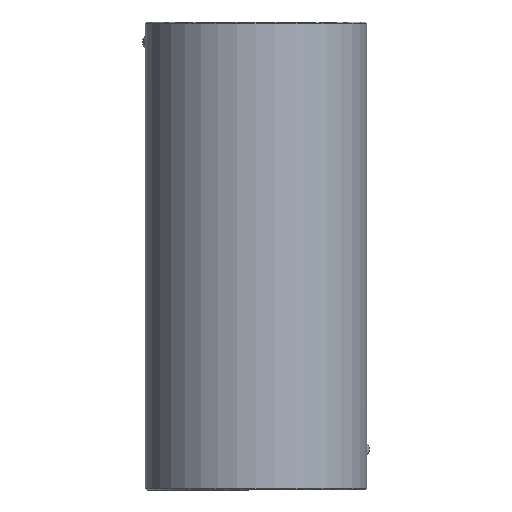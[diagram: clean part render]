
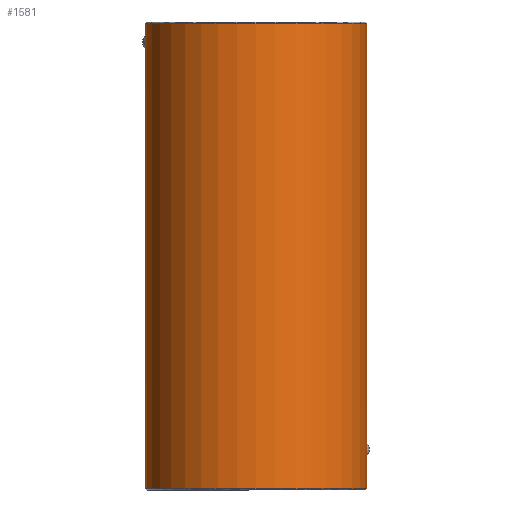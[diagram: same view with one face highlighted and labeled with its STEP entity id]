
A CAD part, front view. The second image highlights one B-rep face of the part: STEP entity #1581.
In plain terms, the highlighted cylindrical face has radius 22.5 mm (diameter 45 mm), a partial arc.
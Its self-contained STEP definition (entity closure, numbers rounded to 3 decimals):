
#1363=CARTESIAN_POINT('Vertex',(-22.5,0.,0.3)) ;
#1370=CARTESIAN_POINT('Vertex',(22.5,0.,0.3)) ;
#1373=CARTESIAN_POINT('Axis2P3D Location',(0.,0.,0.3)) ;
#1491=CARTESIAN_POINT('Axis2P3D Location',(0.,0.,95.)) ;
#1496=CARTESIAN_POINT('Line Origine',(22.5,0.,95.)) ;
#1500=CARTESIAN_POINT('Vertex',(22.5,0.,6.877)) ;
#1504=CARTESIAN_POINT('Control Point',(22.458,-1.369,8.201)) ;
#1505=CARTESIAN_POINT('Control Point',(22.458,-1.369,7.777)) ;
#1506=CARTESIAN_POINT('Control Point',(22.469,-1.194,7.356)) ;
#1507=CARTESIAN_POINT('Control Point',(22.49,-0.847,7.034)) ;
#1508=CARTESIAN_POINT('Control Point',(22.5,-0.424,6.877)) ;
#1509=CARTESIAN_POINT('Control Point',(22.5,0.,6.877)) ;
#1510=CARTESIAN_POINT('Vertex',(22.458,-1.369,8.201)) ;
#1514=CARTESIAN_POINT('Control Point',(22.5,0.,9.523)) ;
#1515=CARTESIAN_POINT('Control Point',(22.5,-0.423,9.523)) ;
#1516=CARTESIAN_POINT('Control Point',(22.49,-0.842,9.368)) ;
#1517=CARTESIAN_POINT('Control Point',(22.469,-1.194,9.046)) ;
#1518=CARTESIAN_POINT('Control Point',(22.458,-1.368,8.624)) ;
#1519=CARTESIAN_POINT('Control Point',(22.458,-1.369,8.201)) ;
#1520=CARTESIAN_POINT('Vertex',(22.5,0.,9.523)) ;
#1523=CARTESIAN_POINT('Line Origine',(22.5,0.,95.)) ;
#1527=CARTESIAN_POINT('Vertex',(22.5,0.,94.7)) ;
#1530=CARTESIAN_POINT('Axis2P3D Location',(0.,0.,94.7)) ;
#1534=CARTESIAN_POINT('Vertex',(-22.5,0.,94.7)) ;
#1537=CARTESIAN_POINT('Line Origine',(-22.5,0.,95.)) ;
#1541=CARTESIAN_POINT('Vertex',(-22.5,0.,92.223)) ;
#1545=CARTESIAN_POINT('Control Point',(-22.458,-1.369,90.899)) ;
#1546=CARTESIAN_POINT('Control Point',(-22.458,-1.369,91.323)) ;
#1547=CARTESIAN_POINT('Control Point',(-22.469,-1.194,91.744)) ;
#1548=CARTESIAN_POINT('Control Point',(-22.49,-0.847,92.066)) ;
#1549=CARTESIAN_POINT('Control Point',(-22.5,-0.424,92.223)) ;
#1550=CARTESIAN_POINT('Control Point',(-22.5,0.,92.223)) ;
#1551=CARTESIAN_POINT('Vertex',(-22.458,-1.369,90.899)) ;
#1555=CARTESIAN_POINT('Control Point',(-22.5,0.,89.577)) ;
#1556=CARTESIAN_POINT('Control Point',(-22.5,-0.423,89.577)) ;
#1557=CARTESIAN_POINT('Control Point',(-22.49,-0.842,89.732)) ;
#1558=CARTESIAN_POINT('Control Point',(-22.469,-1.194,90.054)) ;
#1559=CARTESIAN_POINT('Control Point',(-22.458,-1.368,90.476)) ;
#1560=CARTESIAN_POINT('Control Point',(-22.458,-1.369,90.899)) ;
#1561=CARTESIAN_POINT('Vertex',(-22.5,0.,89.577)) ;
#1564=CARTESIAN_POINT('Line Origine',(-22.5,0.,95.)) ;
#1374=DIRECTION('Axis2P3D Direction',(0.,-0.,1.)) ;
#1492=DIRECTION('Axis2P3D Direction',(0.,0.,-1.)) ;
#1493=DIRECTION('Axis2P3D XDirection',(1.,0.,0.)) ;
#1497=DIRECTION('Vector Direction',(0.,0.,-1.)) ;
#1524=DIRECTION('Vector Direction',(0.,0.,-1.)) ;
#1531=DIRECTION('Axis2P3D Direction',(0.,0.,-1.)) ;
#1538=DIRECTION('Vector Direction',(0.,0.,-1.)) ;
#1565=DIRECTION('Vector Direction',(0.,0.,-1.)) ;
#1375=AXIS2_PLACEMENT_3D('Circle Axis2P3D',#1373,#1374,$) ;
#1494=AXIS2_PLACEMENT_3D('Cylinder Axis2P3D',#1491,#1492,#1493) ;
#1532=AXIS2_PLACEMENT_3D('Circle Axis2P3D',#1530,#1531,$) ;
#1570=ORIENTED_EDGE('',*,*,#1502,.T.) ;
#1571=ORIENTED_EDGE('',*,*,#1512,.F.) ;
#1572=ORIENTED_EDGE('',*,*,#1522,.F.) ;
#1573=ORIENTED_EDGE('',*,*,#1529,.T.) ;
#1574=ORIENTED_EDGE('',*,*,#1536,.F.) ;
#1575=ORIENTED_EDGE('',*,*,#1543,.T.) ;
#1576=ORIENTED_EDGE('',*,*,#1553,.F.) ;
#1577=ORIENTED_EDGE('',*,*,#1563,.F.) ;
#1578=ORIENTED_EDGE('',*,*,#1568,.T.) ;
#1579=ORIENTED_EDGE('',*,*,#1377,.T.) ;
#1498=VECTOR('Line Direction',#1497,1.) ;
#1525=VECTOR('Line Direction',#1524,1.) ;
#1539=VECTOR('Line Direction',#1538,1.) ;
#1566=VECTOR('Line Direction',#1565,1.) ;
#1581=ADVANCED_FACE('730-38x95',(#1580),#1495,.T.) ;
#1503=B_SPLINE_CURVE_WITH_KNOTS('',5,(#1504,#1505,#1506,#1507,#1508,#1509),.UNSPECIFIED.,.F.,.U.,(6,6),(0.,3.001),.UNSPECIFIED.) ;
#1513=B_SPLINE_CURVE_WITH_KNOTS('',5,(#1514,#1515,#1516,#1517,#1518,#1519),.UNSPECIFIED.,.F.,.U.,(6,6),(0.,2.995),.UNSPECIFIED.) ;
#1544=B_SPLINE_CURVE_WITH_KNOTS('',5,(#1545,#1546,#1547,#1548,#1549,#1550),.UNSPECIFIED.,.F.,.U.,(6,6),(0.,3.001),.UNSPECIFIED.) ;
#1554=B_SPLINE_CURVE_WITH_KNOTS('',5,(#1555,#1556,#1557,#1558,#1559,#1560),.UNSPECIFIED.,.F.,.U.,(6,6),(0.,2.995),.UNSPECIFIED.) ;
#1376=CIRCLE('generated circle',#1375,22.5) ;
#1533=CIRCLE('generated circle',#1532,22.5) ;
#1495=CYLINDRICAL_SURFACE('generated cylinder',#1494,22.5) ;
#1377=EDGE_CURVE('',#1364,#1371,#1376,.T.) ;
#1502=EDGE_CURVE('',#1371,#1501,#1499,.F.) ;
#1512=EDGE_CURVE('',#1511,#1501,#1503,.T.) ;
#1522=EDGE_CURVE('',#1521,#1511,#1513,.T.) ;
#1529=EDGE_CURVE('',#1521,#1528,#1526,.F.) ;
#1536=EDGE_CURVE('',#1535,#1528,#1533,.F.) ;
#1543=EDGE_CURVE('',#1535,#1542,#1540,.T.) ;
#1553=EDGE_CURVE('',#1552,#1542,#1544,.T.) ;
#1563=EDGE_CURVE('',#1562,#1552,#1554,.T.) ;
#1568=EDGE_CURVE('',#1562,#1364,#1567,.T.) ;
#1569=EDGE_LOOP('',(#1570,#1571,#1572,#1573,#1574,#1575,#1576,#1577,#1578,#1579)) ;
#1580=FACE_OUTER_BOUND('',#1569,.T.) ;
#1499=LINE('Line',#1496,#1498) ;
#1526=LINE('Line',#1523,#1525) ;
#1540=LINE('Line',#1537,#1539) ;
#1567=LINE('Line',#1564,#1566) ;
#1364=VERTEX_POINT('',#1363) ;
#1371=VERTEX_POINT('',#1370) ;
#1501=VERTEX_POINT('',#1500) ;
#1511=VERTEX_POINT('',#1510) ;
#1521=VERTEX_POINT('',#1520) ;
#1528=VERTEX_POINT('',#1527) ;
#1535=VERTEX_POINT('',#1534) ;
#1542=VERTEX_POINT('',#1541) ;
#1552=VERTEX_POINT('',#1551) ;
#1562=VERTEX_POINT('',#1561) ;
